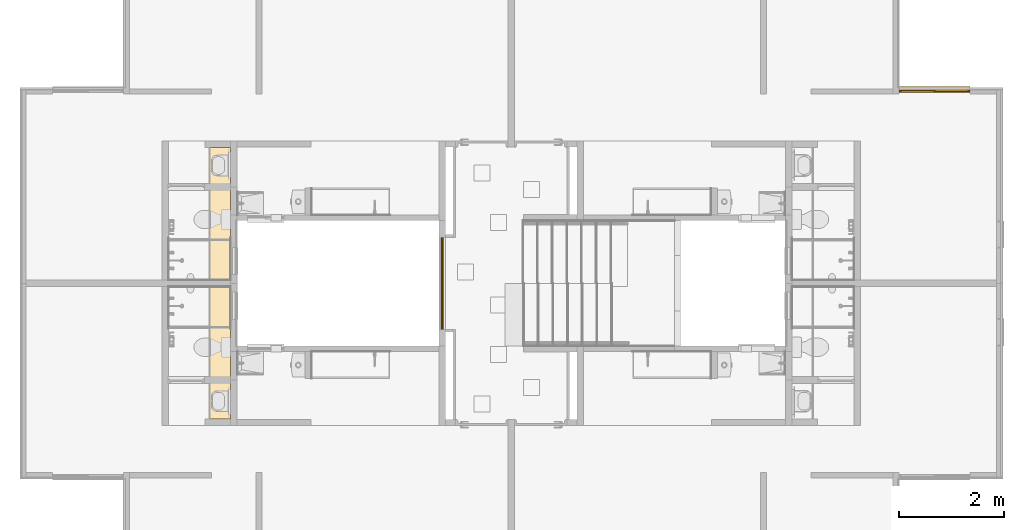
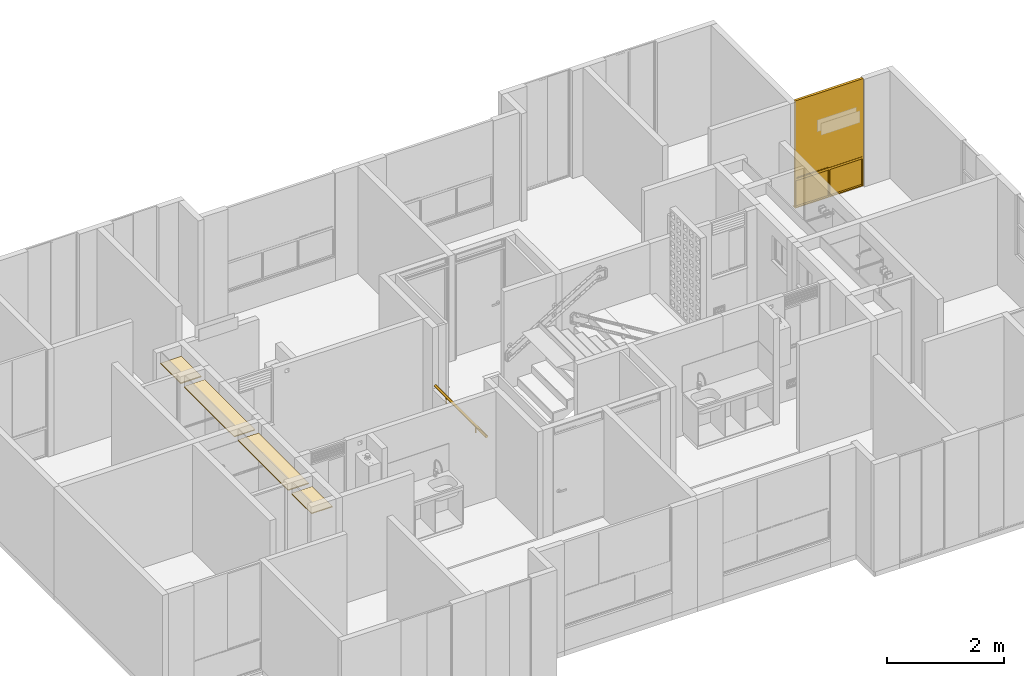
# One storey, part 36 of 48: 2 coverings, 1 railing, 1 window.
"""IFC4 building model written with IfcOpenShell, lengths in metres."""

import ifcopenshell
import ifcopenshell.guid

model = None  # the IFC model being written
_history = None  # IfcOwnerHistory: only IFC2X3 demands one
_inside = {}  # id of a spatial element -> (the spatial element, [elements in it])
_under = {}  # id of a project, library or spatial element -> (it, [spatial elements below it])
_declared = {}  # id of a project -> (the project, [libraries it declares])
_typed = {}  # id of a type object -> (the type object, [elements of that type])
_made_of = {}  # id of a material, layer set ... -> (it, [elements and type objects made of it])


def new_model(schema):
    """Start an empty IFC model of exactly this schema.

    Asked for "IFC4X3", IfcOpenShell would pick the latest addendum, in which some entities
    have other attributes; the version numbers below select the first issue.
    IFC2X3 requires an IfcOwnerHistory on every rooted entity: one is made here for all.
    """
    global model, _history
    if schema == "IFC4X3":
        model = ifcopenshell.file(schema_version=(4, 3, 0, 0))
    else:
        model = ifcopenshell.file(schema=schema)
    _inside.clear()
    _under.clear()
    _declared.clear()
    _typed.clear()
    _made_of.clear()
    _history = None
    if model.schema == "IFC2X3":
        org = make("IfcOrganization", Name="unknown")
        user = make(
            "IfcPersonAndOrganization",
            ThePerson=make("IfcPerson", FamilyName="unknown"),
            TheOrganization=org,
        )
        app = make(
            "IfcApplication",
            ApplicationDeveloper=org,
            Version="unknown",
            ApplicationFullName="unknown",
            ApplicationIdentifier="unknown",
        )
        _history = make(
            "IfcOwnerHistory",
            OwningUser=user,
            OwningApplication=app,
            ChangeAction="ADDED",
            CreationDate=0,
        )
    return model


def make(cls, **values):
    """One entity of the class cls with the attributes given. An attribute that is None is left unset."""
    return model.create_entity(
        cls, **{name: value for name, value in values.items() if value is not None}
    )


def entity(cls, *values):
    """Any entity or typed value of the class cls, its attributes in the order of the schema. None: left unset."""
    e = model.create_entity(cls)
    for i, value in enumerate(values):
        if value is not None:
            e[i] = value
    return e


def rooted(cls, **values):
    """An entity with a GlobalId (a new one), such as an element, a storey or a relation."""
    return make(cls, GlobalId=ifcopenshell.guid.new(), OwnerHistory=_history, **values)


def si_unit(unit_type, name, prefix=None):
    """IfcSIUnit, for example si_unit("LENGTHUNIT", "METRE", prefix="MILLI")."""
    return make("IfcSIUnit", UnitType=unit_type, Prefix=prefix, Name=name)


def converted_unit(unit_type, name, factor, base, dimensions=None, offset=None):
    """IfcConversionBasedUnit, such as the inch: factor (a typed value) times the base unit."""
    return make(
        "IfcConversionBasedUnit"
        if offset is None
        else "IfcConversionBasedUnitWithOffset",
        ConversionOffset=offset,
        Dimensions=None
        if dimensions is None
        else entity("IfcDimensionalExponents", *dimensions),
        UnitType=unit_type,
        Name=name,
        ConversionFactor=make(
            "IfcMeasureWithUnit", ValueComponent=factor, UnitComponent=base
        ),
    )


def derived_unit(unit_type, elements):
    """IfcDerivedUnit: a product of units, each with its exponent."""
    return make(
        "IfcDerivedUnit",
        Elements=[
            make("IfcDerivedUnitElement", Unit=unit, Exponent=power)
            for unit, power in elements
        ],
        UnitType=unit_type,
    )


def assignment(units):
    """IfcUnitAssignment: the units of a project."""
    return None if units is None else make("IfcUnitAssignment", Units=units)


def point(xyz):
    """IfcCartesianPoint."""
    return None if xyz is None else make("IfcCartesianPoint", Coordinates=xyz)


def direction(xyz):
    """IfcDirection."""
    return None if xyz is None else make("IfcDirection", DirectionRatios=xyz)


def frame(location, z_axis=None, x_axis=None):
    """IfcAxis2Placement3D, a coordinate frame: its origin and axes. An axis left out is left unset."""
    return make(
        "IfcAxis2Placement3D",
        Location=point(location),
        Axis=direction(z_axis),
        RefDirection=direction(x_axis),
    )


def origin():
    """The frame at (0, 0, 0) with its axes left unset."""
    return frame((0.0, 0.0, 0.0))


def place(relative_to, where):
    """IfcLocalPlacement: puts the frame where relative to a parent placement (None: the world)."""
    return make(
        "IfcLocalPlacement", PlacementRelTo=relative_to, RelativePlacement=where
    )


def context(
    kind, dimensions, precision=None, world=None, true_north=None, identifier=None
):
    """IfcGeometricRepresentationContext, for example the 3D "Model" context."""
    return make(
        "IfcGeometricRepresentationContext",
        ContextIdentifier=identifier,
        ContextType=kind,
        CoordinateSpaceDimension=dimensions,
        Precision=precision,
        WorldCoordinateSystem=world,
        TrueNorth=true_north,
    )


def subcontext(parent, identifier, kind, view, scale=None):
    """IfcGeometricRepresentationSubContext, for example "Body" below "Model"."""
    return make(
        "IfcGeometricRepresentationSubContext",
        ContextIdentifier=identifier,
        ContextType=kind,
        ParentContext=parent,
        TargetScale=scale,
        TargetView=view,
    )


def project(units=None, contexts=None):
    """IfcProject with its units and contexts."""
    return rooted(
        "IfcProject",
        Name="project",
        RepresentationContexts=contexts,
        UnitsInContext=assignment(units),
    )


def spatial(cls, under=None, at=None, **own):
    """A site, building, storey or space (cls), placed at a placement, below another one or the project."""
    s = rooted(cls, ObjectPlacement=at, **own)
    if under is not None:
        _under.setdefault(under.id(), (under, []))[1].append(s)
    return s


def point_list(points):
    """IfcCartesianPointList2D or 3D."""
    cls = (
        "IfcCartesianPointList2D" if len(points[0]) == 2 else "IfcCartesianPointList3D"
    )
    return make(cls, CoordList=points)


def arc(*indices):
    """IfcArcIndex: an arc through three numbered points of an indexed curve."""
    return model.create_entity("IfcArcIndex", indices)


def indexed_curve(points, segments=None, self_intersect=None):
    """IfcIndexedPolyCurve: lines and arcs through numbered points (the first is 1)."""
    return make(
        "IfcIndexedPolyCurve",
        Points=point_list(points),
        Segments=segments,
        SelfIntersect=self_intersect,
    )


def outline(outer, holes=None, kind="AREA"):
    """IfcArbitraryClosedProfileDef: a profile drawn as a closed curve; with holes, ...WithVoids."""
    if holes is None:
        return make("IfcArbitraryClosedProfileDef", ProfileType=kind, OuterCurve=outer)
    return make(
        "IfcArbitraryProfileDefWithVoids",
        ProfileType=kind,
        OuterCurve=outer,
        InnerCurves=holes,
    )


def extrude(swept, where, along, depth):
    """IfcExtrudedAreaSolid: the profile swept, set in the frame where, extruded along a direction by depth."""
    return make(
        "IfcExtrudedAreaSolid",
        SweptArea=swept,
        Position=where,
        ExtrudedDirection=direction(along),
        Depth=depth,
    )


def polygons(points, faces, closed=None, point_numbers=None):
    """IfcPolygonalFaceSet: a face is its outer loop, then its inner loops; points numbered from 1."""
    made = []
    for loops in faces:
        if len(loops) == 1:
            made.append(make("IfcIndexedPolygonalFace", CoordIndex=loops[0]))
        else:
            made.append(
                make(
                    "IfcIndexedPolygonalFaceWithVoids",
                    CoordIndex=loops[0],
                    InnerCoordIndices=loops[1:],
                )
            )
    return make(
        "IfcPolygonalFaceSet",
        Coordinates=point_list(points),
        Closed=closed,
        Faces=made,
        PnIndex=point_numbers,
    )


def shape(context_of_items, identifier, shape_type, items):
    """IfcShapeRepresentation: the items that make up one representation, for example the "Body"."""
    return make(
        "IfcShapeRepresentation",
        ContextOfItems=context_of_items,
        RepresentationIdentifier=identifier,
        RepresentationType=shape_type,
        Items=items,
    )


def source(mapping_origin, context_of_items, identifier, shape_type, items):
    """IfcRepresentationMap: a shape defined once, which mapped items show again and again."""
    return make(
        "IfcRepresentationMap",
        MappingOrigin=mapping_origin,
        MappedRepresentation=shape(context_of_items, identifier, shape_type, items),
    )


def transform(
    local_origin,
    x_axis=None,
    y_axis=None,
    z_axis=None,
    scale=None,
    scale2=None,
    scale3=None,
    uniform=True,
):
    """IfcCartesianTransformationOperator3D, or its non-uniform kind. x_axis, y_axis, z_axis: its Axis1, 2, 3."""
    if uniform:
        return make(
            "IfcCartesianTransformationOperator3D",
            Axis1=direction(x_axis),
            Axis2=direction(y_axis),
            LocalOrigin=point(local_origin),
            Scale=scale,
            Axis3=direction(z_axis),
        )
    return make(
        "IfcCartesianTransformationOperator3DnonUniform",
        Axis1=direction(x_axis),
        Axis2=direction(y_axis),
        LocalOrigin=point(local_origin),
        Scale=scale,
        Axis3=direction(z_axis),
        Scale2=scale2,
        Scale3=scale3,
    )


def mapped(mapping_source, mapping_target):
    """IfcMappedItem: shows the shape of a source again, moved by a transform."""
    return make(
        "IfcMappedItem", MappingSource=mapping_source, MappingTarget=mapping_target
    )


def material(Name=None, Category=None):
    """IfcMaterial."""
    return make("IfcMaterial", Name=Name, Category=Category)


def constituent(of_material, Name=None, Category=None, fraction=None):
    """IfcMaterialConstituent: one of the materials an element consists of."""
    return make(
        "IfcMaterialConstituent",
        Name=Name,
        Material=of_material,
        Fraction=fraction,
        Category=Category,
    )


def constituent_set(constituents=None, Name=None):
    """IfcMaterialConstituentSet."""
    return make(
        "IfcMaterialConstituentSet", Name=Name, MaterialConstituents=constituents
    )


def made_of(thing, what):
    """Note that an element or type object is made of a material, layer set ...; save() writes the relation."""
    if what is not None:
        _made_of.setdefault(what.id(), (what, []))[1].append(thing)
    return thing


def type_object(cls, material=None, **own):
    """A type object (cls), such as IfcWallType, which elements share."""
    return made_of(rooted(cls, **own), material)


def type_shapes(of_type, sources):
    """Give a type object the sources (RepresentationMaps) that its elements show as mapped items."""
    of_type.RepresentationMaps = sources


def element(
    cls,
    number,
    at=None,
    inside=None,
    cuts=None,
    type_object=None,
    material=None,
    context=None,
    identifier="Body",
    shape_type=None,
    held_by="IfcProductDefinitionShape",
    body=None,
    shapes=None,
    **own,
):
    """One element of the class cls, such as IfcWall. Its Tag is "e" and its number.

    at: its placement. inside: the storey or other place that contains it. cuts: it is an
    opening in that element (IfcRelVoidsElement). A single representation is given by context,
    identifier, shape_type and body (its items); several are given by shapes. held_by: the class
    of the entity that holds the representations. save() writes the other relations.
    """
    e = rooted(cls, Tag="e%d" % number, ObjectPlacement=at, **own)
    if body is not None:
        shapes = [shape(context, identifier, shape_type, body)]
    if shapes is not None:
        e.Representation = make(held_by, Representations=shapes)
    if inside is not None:
        _inside.setdefault(inside.id(), (inside, []))[1].append(e)
    if cuts is not None:
        rooted(
            "IfcRelVoidsElement", RelatingBuildingElement=cuts, RelatedOpeningElement=e
        )
    if type_object is not None:
        _typed.setdefault(type_object.id(), (type_object, []))[1].append(e)
    return made_of(e, material)


def aggregate(whole, parts):
    """IfcRelAggregates: a whole, such as a stair, and the parts it consists of."""
    return rooted("IfcRelAggregates", RelatingObject=whole, RelatedObjects=parts)


def save(model, path):
    """Write the relations noted so far, then the file.

    IfcRelAggregates (storeys below a building ...), IfcRelContainedInSpatialStructure (elements
    in a storey), IfcRelDefinesByType, IfcRelAssociatesMaterial and IfcRelDeclares: one each for
    every whole, place, type object, material and project.
    """
    for whole, parts in _under.values():
        aggregate(whole, parts)
    for where, things in _inside.values():
        rooted(
            "IfcRelContainedInSpatialStructure",
            RelatedElements=things,
            RelatingStructure=where,
        )
    for kind, things in _typed.values():
        rooted("IfcRelDefinesByType", RelatedObjects=things, RelatingType=kind)
    for what, things in _made_of.values():
        rooted("IfcRelAssociatesMaterial", RelatedObjects=things, RelatingMaterial=what)
    for by, libraries in _declared.values():
        rooted("IfcRelDeclares", RelatingContext=by, RelatedDefinitions=libraries)
    model.write(path)


model = new_model("IFC4")

# Units and contexts
model_context = context("Model", 3, precision=1e-05, world=origin(), true_north=direction((6.123031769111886e-17, 1.0)))
body_context = subcontext(model_context, "Body", "Model", "MODEL_VIEW")
ifc_project = project(units=[si_unit("LENGTHUNIT", "METRE"), si_unit("AREAUNIT", "SQUARE_METRE"), si_unit("VOLUMEUNIT", "CUBIC_METRE"), converted_unit("PLANEANGLEUNIT", "DEGREE", entity("IfcRatioMeasure", 0.017453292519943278), si_unit("PLANEANGLEUNIT", "RADIAN"), dimensions=[0, 0, 0, 0, 0, 0, 0]), si_unit("MASSUNIT", "GRAM", prefix="KILO"), derived_unit("MASSDENSITYUNIT", [(si_unit("MASSUNIT", "GRAM", prefix="KILO"), 1), (si_unit("LENGTHUNIT", "METRE"), -3)]), derived_unit("IONCONCENTRATIONUNIT", [(si_unit("MASSUNIT", "GRAM", prefix="KILO"), 1), (si_unit("LENGTHUNIT", "METRE"), -3)]), derived_unit("MOMENTOFINERTIAUNIT", [(si_unit("LENGTHUNIT", "METRE"), 4)]), si_unit("TIMEUNIT", "SECOND"), si_unit("FREQUENCYUNIT", "HERTZ"), si_unit("THERMODYNAMICTEMPERATUREUNIT", "DEGREE_CELSIUS"), derived_unit("THERMALTRANSMITTANCEUNIT", [(si_unit("MASSUNIT", "GRAM", prefix="KILO"), 1), (si_unit("THERMODYNAMICTEMPERATUREUNIT", "KELVIN"), -1), (si_unit("TIMEUNIT", "SECOND"), -3)]), derived_unit("THERMALCONDUCTANCEUNIT", [(si_unit("MASSUNIT", "GRAM", prefix="KILO"), 1), (si_unit("THERMODYNAMICTEMPERATUREUNIT", "KELVIN"), -1), (si_unit("TIMEUNIT", "SECOND"), -3), (si_unit("LENGTHUNIT", "METRE"), 1)]), derived_unit("VOLUMETRICFLOWRATEUNIT", [(si_unit("LENGTHUNIT", "METRE"), 3), (si_unit("TIMEUNIT", "SECOND"), -1)]), derived_unit("MASSFLOWRATEUNIT", [(si_unit("MASSUNIT", "GRAM", prefix="KILO"), 1), (si_unit("TIMEUNIT", "SECOND"), -1)]), derived_unit("ROTATIONALFREQUENCYUNIT", [(si_unit("TIMEUNIT", "SECOND"), -1)]), si_unit("ELECTRICCURRENTUNIT", "AMPERE"), si_unit("ELECTRICVOLTAGEUNIT", "VOLT"), si_unit("POWERUNIT", "WATT"), si_unit("FORCEUNIT", "NEWTON", prefix="KILO"), si_unit("ILLUMINANCEUNIT", "LUX"), si_unit("LUMINOUSFLUXUNIT", "LUMEN"), si_unit("LUMINOUSINTENSITYUNIT", "CANDELA"), derived_unit("USERDEFINED", [(si_unit("MASSUNIT", "GRAM", prefix="KILO"), -1), (si_unit("LENGTHUNIT", "METRE"), -2), (si_unit("TIMEUNIT", "SECOND"), 3), (si_unit("LUMINOUSFLUXUNIT", "LUMEN"), 1)]), derived_unit("USERDEFINED", [(si_unit("MASSUNIT", "GRAM", prefix="KILO"), 1), (si_unit("TIMEUNIT", "SECOND"), -3), (si_unit("LENGTHUNIT", "METRE"), 3), (si_unit("ELECTRICCURRENTUNIT", "AMPERE"), -2)]), derived_unit("SOUNDPOWERUNIT", [(si_unit("MASSUNIT", "GRAM", prefix="KILO"), 1), (si_unit("TIMEUNIT", "SECOND"), -3), (si_unit("LENGTHUNIT", "METRE"), 2)]), derived_unit("SOUNDPRESSUREUNIT", [(si_unit("MASSUNIT", "GRAM", prefix="KILO"), 1), (si_unit("LENGTHUNIT", "METRE"), -1), (si_unit("TIMEUNIT", "SECOND"), -2)]), derived_unit("LINEARVELOCITYUNIT", [(si_unit("LENGTHUNIT", "METRE"), 1), (si_unit("TIMEUNIT", "SECOND"), -1)]), si_unit("PRESSUREUNIT", "PASCAL"), derived_unit("USERDEFINED", [(si_unit("MASSUNIT", "GRAM", prefix="KILO"), 1), (si_unit("LENGTHUNIT", "METRE"), -2), (si_unit("TIMEUNIT", "SECOND"), -2)]), derived_unit("LINEARFORCEUNIT", [(si_unit("MASSUNIT", "GRAM", prefix="KILO"), 1), (si_unit("TIMEUNIT", "SECOND"), -2)]), derived_unit("PLANARFORCEUNIT", [(si_unit("MASSUNIT", "GRAM", prefix="KILO"), 1), (si_unit("LENGTHUNIT", "METRE"), -1), (si_unit("TIMEUNIT", "SECOND"), -2)]), derived_unit("SPECIFICHEATCAPACITYUNIT", [(si_unit("THERMODYNAMICTEMPERATUREUNIT", "KELVIN"), -1), (si_unit("LENGTHUNIT", "METRE"), 2), (si_unit("TIMEUNIT", "SECOND"), -2)]), derived_unit("HEATINGVALUEUNIT", [(si_unit("LENGTHUNIT", "METRE"), 2), (si_unit("TIMEUNIT", "SECOND"), -2)]), derived_unit("VAPORPERMEABILITYUNIT", [(si_unit("LENGTHUNIT", "METRE"), -1), (si_unit("TIMEUNIT", "SECOND"), 1)]), derived_unit("DYNAMICVISCOSITYUNIT", [(si_unit("MASSUNIT", "GRAM", prefix="KILO"), 1), (si_unit("TIMEUNIT", "SECOND"), -1), (si_unit("LENGTHUNIT", "METRE"), -1)]), derived_unit("THERMALEXPANSIONCOEFFICIENTUNIT", [(si_unit("THERMODYNAMICTEMPERATUREUNIT", "KELVIN"), -1)]), derived_unit("MODULUSOFELASTICITYUNIT", [(si_unit("MASSUNIT", "GRAM", prefix="KILO"), 1), (si_unit("LENGTHUNIT", "METRE"), -1), (si_unit("TIMEUNIT", "SECOND"), -2)]), derived_unit("ISOTHERMALMOISTURECAPACITYUNIT", [(si_unit("LENGTHUNIT", "METRE"), 3), (si_unit("MASSUNIT", "GRAM", prefix="KILO"), -1)]), derived_unit("MOISTUREDIFFUSIVITYUNIT", [(si_unit("TIMEUNIT", "SECOND"), -1), (si_unit("LENGTHUNIT", "METRE"), 2)])], contexts=[model_context])

# Site, building, storey
site_placement = place(None, origin())
site = spatial("IfcSite", under=ifc_project, at=site_placement, Name="Default", CompositionType="ELEMENT")
building_placement = place(site_placement, origin())
building = spatial("IfcBuilding", under=site, at=building_placement, CompositionType="ELEMENT")
storey_placement = place(building_placement, frame((0.0, 0.0, 9.40000000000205)))
storey = spatial("IfcBuildingStorey", under=building, at=storey_placement, Name="Nivel 5", CompositionType="ELEMENT", Elevation=9.40000000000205)

# Window
ifc_material_1 = material(Name="Vidrio", Category="Materials")
ifc_constituent_1 = constituent(ifc_material_1, Name="Vidrio", Category="Materials")
ifc_material_2 = material(Name="Aluminio", Category="Materials")
ifc_constituent_2 = constituent(ifc_material_2, Name="Aluminio", Category="Materials")
ifc_material_3 = material(Name="<Unnamed>")
ifc_constituent_3 = constituent(ifc_material_3, Name="<Unnamed>")
ifc_constituent_set_1 = constituent_set(constituents=[ifc_constituent_1, ifc_constituent_2, ifc_constituent_3])
ifc_constituent_4 = constituent(ifc_material_1, Name="Vidrio", Category="Materials")
ifc_constituent_5 = constituent(ifc_material_2, Name="Aluminio", Category="Materials")
ifc_constituent_6 = constituent(ifc_material_3, Name="<Unnamed>")
ifc_constituent_set_2 = constituent_set(constituents=[ifc_constituent_4, ifc_constituent_5, ifc_constituent_6])
window_type = type_object("IfcWindowType", Name="B2020 - Ventana corrediza - Aluminio + Vidrio:B2020 - 1.35m x 2.25m - Ventana corrediza 2C - Aluminio + Vidrio", PartitioningType="NOTDEFINED", PredefinedType="WINDOW", material=ifc_constituent_set_2)
shared_shape = source(origin(), body_context, "Body", "Tessellation", [
    polygons([(1.3299999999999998, 0.044249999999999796, 2.2300000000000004), (0.6749999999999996, 0.04424999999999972, 2.2300000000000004), (0.6749999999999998, 0.04424999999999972, 0.6174999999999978), (1.3299999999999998, 0.044249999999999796, 0.6174999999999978), (1.3299999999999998, 0.04824999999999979, 2.2300000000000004), (0.6749999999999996, 0.04824999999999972, 2.2300000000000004), (0.6749999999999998, 0.04824999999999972, 0.6174999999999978), (1.3299999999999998, 0.04824999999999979, 0.6174999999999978)], [[[1, 2, 3, 4]], [[2, 1, 5, 6]], [[3, 2, 6, 7]], [[1, 4, 8, 5]], [[5, 8, 7, 6]], [[4, 3, 7, 8]]], closed=True),
    polygons([(0.020000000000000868, 0.04424999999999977, 2.2300000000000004), (0.020000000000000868, 0.04424999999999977, 0.6174999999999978), (0.6800000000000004, 0.044249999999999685, 0.6174999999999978), (0.6800000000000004, 0.044249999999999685, 2.2300000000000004), (0.020000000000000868, 0.048249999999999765, 2.2300000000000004), (0.020000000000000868, 0.048249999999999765, 0.6174999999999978), (0.6800000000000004, 0.04824999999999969, 0.6174999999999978), (0.6800000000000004, 0.04824999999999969, 2.2300000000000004)], [[[1, 2, 3, 4]], [[2, 1, 5, 6]], [[4, 3, 7, 8]], [[1, 4, 8, 5]], [[5, 8, 7, 6]], [[3, 2, 6, 7]]], closed=True),
    polygons([(0.6800000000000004, 0.048249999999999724, 0.6174999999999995), (0.6800000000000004, 0.044249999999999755, 0.6174999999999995), (0.6800000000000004, 0.044249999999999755, 2.230000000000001), (0.6800000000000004, 0.048249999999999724, 2.230000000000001), (0.665, 0.044249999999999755, 2.2150000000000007), (0.035000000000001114, 0.04424999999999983, 2.2150000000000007), (0.035000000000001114, 0.04424999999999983, 0.6324999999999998), (0.665, 0.044249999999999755, 0.6324999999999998), (0.020000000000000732, 0.04424999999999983, 0.6174999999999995), (0.020000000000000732, 0.04424999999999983, 2.230000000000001), (0.020000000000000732, 0.0482499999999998, 2.230000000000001), (0.020000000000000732, 0.0482499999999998, 0.6174999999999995), (0.665, 0.048249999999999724, 0.6324999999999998), (0.035000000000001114, 0.04824999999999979, 0.6324999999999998), (0.035000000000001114, 0.04824999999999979, 2.2150000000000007), (0.665, 0.048249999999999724, 2.2150000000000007), (0.665, 0.05299999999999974, 0.6324999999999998), (0.665, 0.05299999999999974, 2.2150000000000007), (0.035000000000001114, 0.05299999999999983, 2.2150000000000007), (0.035000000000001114, 0.05299999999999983, 0.6324999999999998), (0.6850000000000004, 0.05299999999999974, 0.6124999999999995), (0.015000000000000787, 0.05299999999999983, 0.6124999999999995), (0.015000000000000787, 0.05299999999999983, 2.2350000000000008), (0.6850000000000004, 0.05299999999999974, 2.2350000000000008), (0.6850000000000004, 0.03949999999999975, 0.6124999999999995), (0.6850000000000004, 0.03949999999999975, 2.2350000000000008), (0.015000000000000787, 0.03949999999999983, 2.2350000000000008), (0.015000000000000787, 0.03949999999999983, 0.6124999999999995), (0.665, 0.03949999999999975, 0.6324999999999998), (0.035000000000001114, 0.03949999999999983, 0.6324999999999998), (0.035000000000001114, 0.03949999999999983, 2.2150000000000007), (0.665, 0.03949999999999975, 2.2150000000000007)], [[[1, 2, 3, 4]], [[2, 9, 10, 3], [5, 6, 7, 8]], [[4, 3, 10, 11]], [[4, 11, 12, 1], [13, 14, 15, 16]], [[17, 13, 16, 18]], [[18, 16, 15, 19]], [[21, 22, 23, 24], [18, 19, 20, 17]], [[25, 21, 24, 26]], [[26, 24, 23, 27]], [[26, 27, 28, 25], [29, 30, 31, 32]], [[8, 29, 32, 5]], [[5, 32, 31, 6]], [[11, 10, 9, 12]], [[19, 15, 14, 20]], [[27, 23, 22, 28]], [[6, 31, 30, 7]], [[12, 9, 2, 1]], [[20, 14, 13, 17]], [[28, 22, 21, 25]], [[7, 30, 29, 8]]], closed=True),
    polygons([(0.6699999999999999, 0.06674999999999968, 2.229999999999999), (0.6699999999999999, 0.06674999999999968, 0.6174999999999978), (1.3299999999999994, 0.06674999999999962, 0.6174999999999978), (1.3299999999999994, 0.06674999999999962, 2.229999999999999), (0.6699999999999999, 0.07074999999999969, 2.229999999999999), (0.6699999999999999, 0.07074999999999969, 0.6174999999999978), (1.3299999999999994, 0.0707499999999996, 0.6174999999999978), (1.3299999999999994, 0.0707499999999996, 2.229999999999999)], [[[1, 2, 3, 4]], [[2, 1, 5, 6]], [[4, 3, 7, 8]], [[1, 4, 8, 5]], [[5, 8, 7, 6]], [[3, 2, 6, 7]]], closed=True),
    polygons([(1.3299999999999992, 0.07074999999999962, 0.6175), (1.3299999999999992, 0.06674999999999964, 0.6175), (1.3299999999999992, 0.06674999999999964, 2.2299999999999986), (1.3299999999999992, 0.07074999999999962, 2.2299999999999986), (1.3149999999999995, 0.06674999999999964, 2.214999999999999), (0.6850000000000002, 0.06674999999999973, 2.214999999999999), (0.6850000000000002, 0.06674999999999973, 0.6324999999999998), (1.3149999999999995, 0.06674999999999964, 0.6324999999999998), (0.6700000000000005, 0.06674999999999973, 0.6175), (0.6700000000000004, 0.06674999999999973, 2.2299999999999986), (0.6700000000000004, 0.0707499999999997, 2.2299999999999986), (0.6700000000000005, 0.0707499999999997, 0.6175), (1.3149999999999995, 0.07074999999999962, 0.6324999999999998), (0.6850000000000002, 0.0707499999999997, 0.6324999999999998), (0.6850000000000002, 0.0707499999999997, 2.214999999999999), (1.3149999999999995, 0.07074999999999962, 2.214999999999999), (1.3149999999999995, 0.07549999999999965, 0.6324999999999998), (1.3149999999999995, 0.07549999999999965, 2.214999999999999), (0.6850000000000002, 0.07549999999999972, 2.214999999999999), (0.6850000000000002, 0.07549999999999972, 0.6324999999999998), (1.3349999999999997, 0.07549999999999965, 0.6124999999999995), (0.665, 0.07549999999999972, 0.6124999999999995), (0.6649999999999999, 0.07549999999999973, 2.2349999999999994), (1.3349999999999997, 0.07549999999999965, 2.2349999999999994), (1.3349999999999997, 0.06199999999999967, 0.6124999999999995), (1.3349999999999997, 0.06199999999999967, 2.2349999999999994), (0.6649999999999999, 0.06199999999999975, 2.2349999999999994), (0.665, 0.06199999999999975, 0.6124999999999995), (1.3149999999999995, 0.06199999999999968, 0.6324999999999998), (0.6850000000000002, 0.06199999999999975, 0.6324999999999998), (0.6850000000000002, 0.06199999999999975, 2.214999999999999), (1.3149999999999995, 0.06199999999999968, 2.214999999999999)], [[[1, 2, 3, 4]], [[2, 9, 10, 3], [5, 6, 7, 8]], [[4, 3, 10, 11]], [[4, 11, 12, 1], [13, 14, 15, 16]], [[17, 13, 16, 18]], [[18, 16, 15, 19]], [[21, 22, 23, 24], [18, 19, 20, 17]], [[25, 21, 24, 26]], [[26, 24, 23, 27]], [[26, 27, 28, 25], [29, 30, 31, 32]], [[8, 29, 32, 5]], [[5, 32, 31, 6]], [[11, 10, 9, 12]], [[19, 15, 14, 20]], [[27, 23, 22, 28]], [[6, 31, 30, 7]], [[12, 9, 2, 1]], [[20, 14, 13, 17]], [[28, 22, 21, 25]], [[7, 30, 29, 8]]], closed=True),
    polygons([(1.3249999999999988, 0.037499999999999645, 2.224999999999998), (1.3249999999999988, 0.03249999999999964, 2.2249999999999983), (0.025000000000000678, 0.03249999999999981, 2.2249999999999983), (0.025000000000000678, 0.037499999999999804, 2.2249999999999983), (0.025000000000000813, 0.03249999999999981, 0.6200000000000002), (0.02500000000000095, 0.037499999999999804, 0.6200000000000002), (1.3249999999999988, 0.03249999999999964, 0.6200000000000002), (6.767919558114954e-16, 0.03249999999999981, 0.595), (1.349999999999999, 0.03249999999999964, 0.595), (1.349999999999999, 0.03249999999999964, 2.2499999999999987), (4.060751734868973e-16, 0.03249999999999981, 2.2499999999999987), (0.005000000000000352, 0.037499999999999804, 2.2449999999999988), (1.344999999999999, 0.037499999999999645, 2.2449999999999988), (1.344999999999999, 0.037499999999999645, 0.5999999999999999), (0.0050000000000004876, 0.037499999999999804, 0.5999999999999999), (1.3249999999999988, 0.037499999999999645, 0.6200000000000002), (1.344999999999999, 0.054999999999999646, 2.2449999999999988), (0.005000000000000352, 0.05499999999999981, 2.2449999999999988), (0.005000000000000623, 0.05499999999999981, 0.5999999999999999), (0.025000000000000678, 0.054999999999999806, 2.2249999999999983), (1.3249999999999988, 0.05499999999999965, 2.224999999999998), (1.3249999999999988, 0.05499999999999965, 0.6200000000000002), (0.025000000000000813, 0.054999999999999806, 0.6200000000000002), (1.344999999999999, 0.054999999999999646, 0.5999999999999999), (1.3249999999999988, 0.05999999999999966, 2.224999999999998), (0.025000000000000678, 0.05999999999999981, 2.2249999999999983), (0.02500000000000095, 0.05999999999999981, 0.6200000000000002), (0.005000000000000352, 0.05999999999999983, 2.2449999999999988), (1.344999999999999, 0.05999999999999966, 2.2449999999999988), (1.344999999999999, 0.05999999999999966, 0.5999999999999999), (0.0050000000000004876, 0.05999999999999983, 0.5999999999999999), (1.3249999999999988, 0.05999999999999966, 0.6200000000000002), (1.344999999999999, 0.07749999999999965, 2.2449999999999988), (0.005000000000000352, 0.07749999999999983, 2.2449999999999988), (0.005000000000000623, 0.07749999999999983, 0.5999999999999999), (0.025000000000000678, 0.07749999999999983, 2.2249999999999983), (1.3249999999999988, 0.07749999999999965, 2.224999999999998), (1.3249999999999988, 0.07749999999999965, 0.6200000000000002), (0.025000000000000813, 0.07749999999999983, 0.6200000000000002), (1.344999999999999, 0.07749999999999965, 0.5999999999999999), (1.3249999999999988, 0.08249999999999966, 2.224999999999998), (0.025000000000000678, 0.08249999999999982, 2.2249999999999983), (0.02500000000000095, 0.08249999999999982, 0.6200000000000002), (4.060751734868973e-16, 0.08249999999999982, 2.2499999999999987), (1.349999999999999, 0.08249999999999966, 2.2499999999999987), (1.349999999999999, 0.08249999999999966, 0.595), (5.414335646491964e-16, 0.08249999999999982, 0.595), (1.3249999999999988, 0.08249999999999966, 0.6200000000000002)], [[[1, 2, 3, 4]], [[4, 3, 5, 6]], [[8, 9, 10, 11], [3, 2, 7, 5]], [[12, 13, 14, 15], [6, 16, 1, 4]], [[17, 13, 12, 18]], [[18, 12, 15, 19]], [[19, 24, 17, 18], [20, 21, 22, 23]], [[25, 21, 20, 26]], [[26, 20, 23, 27]], [[28, 29, 30, 31], [27, 32, 25, 26]], [[33, 29, 28, 34]], [[34, 28, 31, 35]], [[35, 40, 33, 34], [36, 37, 38, 39]], [[41, 37, 36, 42]], [[42, 36, 39, 43]], [[44, 45, 46, 47], [43, 48, 41, 42]], [[10, 45, 44, 11]], [[11, 44, 47, 8]], [[16, 7, 2, 1]], [[24, 14, 13, 17]], [[32, 22, 21, 25]], [[40, 30, 29, 33]], [[48, 38, 37, 41]], [[9, 46, 45, 10]], [[6, 5, 7, 16]], [[19, 15, 14, 24]], [[27, 23, 22, 32]], [[35, 31, 30, 40]], [[43, 39, 38, 48]], [[8, 47, 46, 9]]], closed=True),
    polygons([(0.01999999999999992, 0.08250000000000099, 0.5749999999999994), (0.020000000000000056, 0.03249999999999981, 0.5749999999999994), (0.020000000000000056, 0.0324999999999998, 0.020000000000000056), (0.01999999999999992, 0.08250000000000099, 0.020000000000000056), (0.6649999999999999, 0.03250000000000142, 0.01999999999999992), (0.6649999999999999, 0.08250000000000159, 0.019999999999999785), (2.707167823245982e-16, 0.03250000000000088, 0.5949999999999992), (2.707167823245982e-16, 0.08249999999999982, 0.5949999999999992), (2.707167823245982e-16, 0.08249999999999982, 2.707167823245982e-16), (2.707167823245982e-16, 0.03250000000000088, 2.707167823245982e-16), (1.3499999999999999, 0.08249999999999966, 2.707167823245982e-16), (1.3499999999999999, 0.03250000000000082, 2.707167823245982e-16), (1.3299999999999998, 0.08250000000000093, 0.020000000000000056), (1.33, 0.03249999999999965, 0.020000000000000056), (1.33, 0.03249999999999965, 0.5749999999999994), (1.3299999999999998, 0.08250000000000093, 0.5749999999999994), (1.3499999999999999, 0.08249999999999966, 0.5949999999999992), (1.3499999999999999, 0.03250000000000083, 0.5949999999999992), (0.6849999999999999, 0.03250000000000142, 0.5749999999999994), (0.6849999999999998, 0.08250000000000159, 0.5749999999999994), (0.6849999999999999, 0.08250000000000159, 0.019999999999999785), (0.6849999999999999, 0.03250000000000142, 0.01999999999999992), (0.6649999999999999, 0.03250000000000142, 0.5749999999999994), (0.6649999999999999, 0.08250000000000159, 0.5749999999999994)], [[[1, 2, 3, 4]], [[4, 3, 5, 6]], [[7, 8, 9, 10]], [[10, 9, 11, 12]], [[13, 14, 15, 16]], [[12, 11, 17, 18]], [[16, 15, 19, 20]], [[8, 7, 18, 17]], [[21, 20, 19, 22]], [[7, 10, 12, 18], [22, 19, 15, 14], [23, 5, 3, 2]], [[24, 6, 5, 23]], [[9, 8, 17, 11], [6, 24, 1, 4], [20, 21, 13, 16]], [[2, 1, 24, 23]], [[14, 13, 21, 22]]], closed=True),
    polygons([(0.6850000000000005, 0.07213901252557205, 0.019999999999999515), (1.3300000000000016, 0.07213901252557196, 0.019999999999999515), (1.3300000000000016, 0.06813901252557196, 0.019999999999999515), (0.6850000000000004, 0.06813901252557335, 0.019999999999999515), (0.6850000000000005, 0.07213901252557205, 0.5849999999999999), (1.3300000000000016, 0.07213901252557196, 0.5849999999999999), (1.3300000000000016, 0.06813901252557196, 0.5849999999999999), (0.6850000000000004, 0.06813901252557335, 0.5849999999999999)], [[[1, 2, 3, 4]], [[5, 6, 2, 1]], [[6, 7, 3, 2]], [[7, 8, 4, 3]], [[8, 5, 1, 4]], [[5, 8, 7, 6]]], closed=True),
    polygons([(0.6649999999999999, 0.07213901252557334, 0.019999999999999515), (0.6649999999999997, 0.06813901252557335, 0.019999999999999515), (0.01999999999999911, 0.06813901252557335, 0.019999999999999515), (0.019999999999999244, 0.07213901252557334, 0.019999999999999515), (0.6649999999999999, 0.07213901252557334, 0.5849999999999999), (0.6649999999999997, 0.06813901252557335, 0.5849999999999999), (0.01999999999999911, 0.06813901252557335, 0.5849999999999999), (0.019999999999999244, 0.07213901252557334, 0.5849999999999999)], [[[1, 2, 3, 4]], [[5, 6, 2, 1]], [[6, 7, 3, 2]], [[7, 8, 4, 3]], [[8, 5, 1, 4]], [[5, 8, 7, 6]]], closed=True),
    polygons([(-9.475087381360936e-16, 0.11499999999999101, -4.060751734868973e-16), (-9.475087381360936e-16, 0.08249999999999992, -4.060751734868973e-16), (-9.475087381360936e-16, 0.08249999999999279, 0.0049999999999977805), (-9.475087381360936e-16, 0.11633974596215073, 0.0049999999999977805), (-8.121503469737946e-16, 0.14348076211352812, -0.010669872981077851), (-8.121503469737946e-16, 0.14098076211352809, -0.015000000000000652), (1.3499999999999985, 0.11499999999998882, -4.060751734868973e-16), (1.3499999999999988, 0.1409807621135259, -0.015000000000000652), (1.3499999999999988, 0.14348076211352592, -0.010669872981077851), (1.3499999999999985, 0.11633974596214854, 0.0049999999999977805), (1.3499999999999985, 0.08249999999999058, 0.0049999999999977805), (1.3499999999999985, 0.08249999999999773, -4.060751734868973e-16)], [[[1, 2, 3, 4, 5, 6]], [[7, 8, 9, 10, 11, 12]], [[2, 1, 7, 12]], [[3, 2, 12, 11]], [[4, 3, 11, 10]], [[5, 4, 10, 9]], [[6, 5, 9, 8]], [[1, 6, 8, 7]]], closed=True),
])
type_shapes(window_type, [shared_shape])
window_placement = place(storey_placement, frame((16.7275000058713, -2.8100000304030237, 0.0)))
element("IfcWindow", 1, at=window_placement, inside=storey, type_object=window_type, material=ifc_constituent_set_1, Name="B2020 - Ventana corrediza - Aluminio + Vidrio:B2020 - 1.35m x 2.25m - Ventana corrediza 2C - Aluminio + Vidrio", ObjectType="B2020 - Ventana corrediza - Aluminio + Vidrio:B2020 - 1.35m x 2.25m - Ventana corrediza 2C - Aluminio + Vidrio", OverallHeight=2.265, OverallWidth=1.3500000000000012, PartitioningType="NOTDEFINED", PredefinedType="WINDOW", context=body_context, shape_type="MappedRepresentation", body=[
    mapped(shared_shape, transform((0.0, 0.0, 0.0), scale=1.0)),
])

# Space
space_1_placement = place(storey_placement, origin())
space_1 = spatial("IfcSpace", under=storey, at=space_1_placement, Name="261", CompositionType="ELEMENT", PredefinedType="SPACE")

# Covering
ifc_material_4 = material(Name="Plasterboard", Category="Materials")
covering_type = type_object("IfcCoveringType", Name="Compound Ceiling:C1070 - 0.02m - Plafón - Drywall", PredefinedType="CEILING")
covering_1_placement = place(space_1_placement, origin())
element("IfcCovering", 2, at=covering_1_placement, inside=space_1, type_object=covering_type, material=ifc_material_4, Name="Compound Ceiling:C1070 - 0.02m - Plafón - Drywall", ObjectType="Compound Ceiling:C1070 - 0.02m - Plafón - Drywall", PredefinedType="CEILING", context=body_context, shape_type="SweptSolid", body=[
    extrude(outline(indexed_curve([(-0.862499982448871, -0.20500000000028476), (0.8624999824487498, -0.20500000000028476), (0.862499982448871, 0.20500000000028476), (-0.8624999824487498, 0.20500000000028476), (-0.862499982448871, -0.20500000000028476)], self_intersect=False)), frame((3.7574999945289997, -5.502500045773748, 2.0), z_axis=(0.0, 0.0, 1.0), x_axis=(0.0, 1.0, 0.0)), (0.0, 0.0, 1.0), 0.019999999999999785),
    extrude(outline(indexed_curve([(-0.3449999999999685, -0.20500000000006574), (0.3449999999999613, -0.20500000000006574), (0.3449999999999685, 0.20500000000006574), (-0.3449999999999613, 0.20500000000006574), (-0.3449999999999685, -0.20500000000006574)], self_intersect=False)), frame((3.7574999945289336, -4.18000006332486, 2.0), z_axis=(0.0, 0.0, 1.0), x_axis=(0.0, 1.0, 0.0)), (0.0, 0.0, 1.0), 0.019999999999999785),
])

# Space
space_2_placement = place(storey_placement, origin())
space_2 = spatial("IfcSpace", under=storey, at=space_2_placement, Name="268", CompositionType="ELEMENT", PredefinedType="SPACE")

# Covering
covering_2_placement = place(space_2_placement, origin())
element("IfcCovering", 3, at=covering_2_placement, inside=space_2, type_object=covering_type, material=ifc_material_4, Name="Compound Ceiling:C1070 - 0.02m - Plafón - Drywall", ObjectType="Compound Ceiling:C1070 - 0.02m - Plafón - Drywall", PredefinedType="CEILING", context=body_context, shape_type="SweptSolid", body=[
    extrude(outline(indexed_curve([(-0.2050000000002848, -0.862499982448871), (0.20500000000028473, -0.862499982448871), (0.2050000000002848, 0.862499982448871), (-0.20500000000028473, 0.862499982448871), (-0.2050000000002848, -0.862499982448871)], self_intersect=False)), frame((3.7574999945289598, -7.347500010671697, 2.0), z_axis=(0.0, 0.0, 1.0), x_axis=(-1.0, 0.0, 0.0)), (0.0, 0.0, 1.0), 0.019999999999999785),
    extrude(outline(indexed_curve([(-0.20500000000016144, -0.3450000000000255), (0.20500000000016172, -0.3450000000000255), (0.20500000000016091, 0.3450000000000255), (-0.20500000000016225, 0.3450000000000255), (-0.20500000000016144, -0.3450000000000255)], self_intersect=False)), frame((3.757499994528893, -8.669999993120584, 2.0), z_axis=(0.0, 0.0, 1.0), x_axis=(-1.0, 0.0, 0.0)), (0.0, 0.0, 1.0), 0.019999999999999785),
])

# Railing
ifc_constituent_7 = constituent(ifc_material_3, Name="<Unnamed>")
ifc_constituent_8 = constituent(ifc_material_2, Name="Aluminio", Category="Materials")
ifc_constituent_set_3 = constituent_set(constituents=[ifc_constituent_7, ifc_constituent_8])
railing_placement = place(storey_placement, origin())
element("IfcRailing", 4, at=railing_placement, inside=storey, material=ifc_constituent_set_3, Name="Railing:C1090 - Baranda - Aluminio", ObjectType="Railing:C1090 - Baranda - Aluminio", PredefinedType="NOTDEFINED", context=body_context, shape_type="SweptSolid", body=[
    extrude(outline(indexed_curve([(0.012500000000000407, 0.0), (0.0, 0.012500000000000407), (-0.012500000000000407, 0.0), (0.0, -0.012500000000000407)], segments=[arc(1, 2, 3), arc(3, 4, 1)], self_intersect=False)), frame((8.005000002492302, -6.925000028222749, 0.8749999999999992)), (0.0, 0.0, 1.0), 0.12499999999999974),
    extrude(outline(indexed_curve([(0.012500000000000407, 0.0), (0.0, 0.012500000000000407), (-0.012500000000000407, 0.0), (0.0, -0.012500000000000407)], segments=[arc(1, 2, 3), arc(3, 4, 1)], self_intersect=False)), frame((8.005000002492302, -5.925000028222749, 0.8749999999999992)), (0.0, 0.0, 1.0), 0.12499999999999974),
    extrude(outline(indexed_curve([(-0.02499999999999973, 0.0), (0.0, -0.025000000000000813), (0.02499999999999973, 0.0), (0.0, 0.025000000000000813)], segments=[arc(1, 2, 3), arc(3, 4, 1)], self_intersect=False)), frame((8.005000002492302, -7.305000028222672, 1.025), z_axis=(0.0, 1.0, 0.0), x_axis=(-1.0, 0.0, 0.0)), (0.0, 0.0, 1.0), 1.7599999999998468),
])

save(model, "model.ifc")
